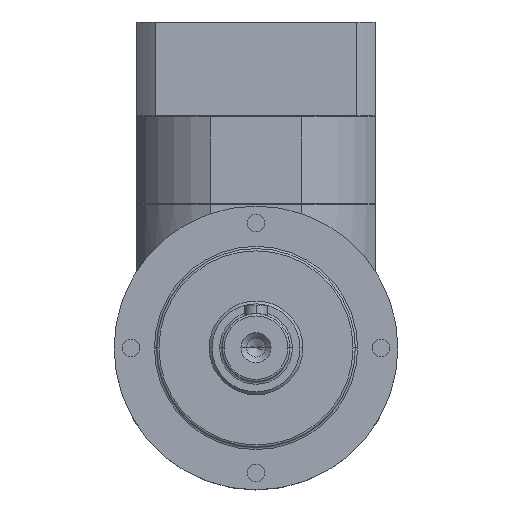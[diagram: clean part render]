
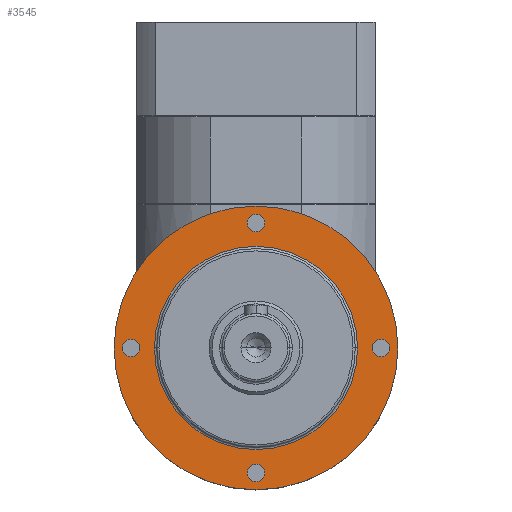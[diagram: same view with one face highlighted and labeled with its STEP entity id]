
A CAD part, top view. The second image highlights one B-rep face of the part: STEP entity #3545.
In plain terms, the highlighted planar face has unit normal (0, 0, 1).
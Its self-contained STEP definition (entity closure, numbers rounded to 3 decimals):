
#71 = EDGE_CURVE ( 'NONE', #2009, #2338, #698, .T. ) ;
#90 = FACE_BOUND ( 'NONE', #1835, .T. ) ;
#92 = VERTEX_POINT ( 'NONE', #1800 ) ;
#163 = DIRECTION ( 'NONE',  ( 0., 0., 1. ) ) ;
#219 = EDGE_CURVE ( 'NONE', #2334, #4240, #964, .T. ) ;
#290 = ORIENTED_EDGE ( 'NONE', *, *, #3217, .T. ) ;
#294 = CARTESIAN_POINT ( 'NONE',  ( -1.55, 22., 15. ) ) ;
#342 = CARTESIAN_POINT ( 'NONE',  ( 0., 22., 15. ) ) ;
#363 = AXIS2_PLACEMENT_3D ( 'NONE', #3899, #3852, #474 ) ;
#406 = EDGE_LOOP ( 'NONE', ( #1446, #1218 ) ) ;
#474 = DIRECTION ( 'NONE',  ( 1., 0., 0. ) ) ;
#494 = PLANE ( 'NONE',  #1918 ) ;
#499 = ORIENTED_EDGE ( 'NONE', *, *, #3732, .F. ) ;
#537 = CARTESIAN_POINT ( 'NONE',  ( 0., 0., 15. ) ) ;
#564 = FACE_BOUND ( 'NONE', #2912, .T. ) ;
#614 = ORIENTED_EDGE ( 'NONE', *, *, #2400, .T. ) ;
#646 = DIRECTION ( 'NONE',  ( 1., 0., 0. ) ) ;
#689 = DIRECTION ( 'NONE',  ( 1., 0., 0. ) ) ;
#698 = CIRCLE ( 'NONE', #3798, 1.55 ) ;
#746 = VERTEX_POINT ( 'NONE', #3964 ) ;
#777 = CARTESIAN_POINT ( 'NONE',  ( 0., -22., 15. ) ) ;
#781 = FACE_BOUND ( 'NONE', #406, .T. ) ;
#782 = CARTESIAN_POINT ( 'NONE',  ( -22., 0., 15. ) ) ;
#787 = CIRCLE ( 'NONE', #1164, 1.55 ) ;
#906 = CARTESIAN_POINT ( 'NONE',  ( 0., 0., 15. ) ) ;
#938 = AXIS2_PLACEMENT_3D ( 'NONE', #906, #1287, #2635 ) ;
#957 = DIRECTION ( 'NONE',  ( 0., 0., -1. ) ) ;
#964 = CIRCLE ( 'NONE', #4397, 1.55 ) ;
#988 = CIRCLE ( 'NONE', #2897, 1.55 ) ;
#1036 = EDGE_CURVE ( 'NONE', #1372, #3642, #3643, .T. ) ;
#1135 = DIRECTION ( 'NONE',  ( 0., 0., 1. ) ) ;
#1151 = EDGE_CURVE ( 'NONE', #3642, #1372, #1380, .T. ) ;
#1164 = AXIS2_PLACEMENT_3D ( 'NONE', #1470, #3167, #3131 ) ;
#1204 = CIRCLE ( 'NONE', #363, 1.55 ) ;
#1218 = ORIENTED_EDGE ( 'NONE', *, *, #219, .F. ) ;
#1287 = DIRECTION ( 'NONE',  ( 0., 0., 1. ) ) ;
#1322 = ORIENTED_EDGE ( 'NONE', *, *, #1151, .T. ) ;
#1329 = CARTESIAN_POINT ( 'NONE',  ( 0., 0., 15. ) ) ;
#1346 = VERTEX_POINT ( 'NONE', #1684 ) ;
#1372 = VERTEX_POINT ( 'NONE', #4063 ) ;
#1380 = CIRCLE ( 'NONE', #938, 25. ) ;
#1446 = ORIENTED_EDGE ( 'NONE', *, *, #3776, .F. ) ;
#1470 = CARTESIAN_POINT ( 'NONE',  ( -22., 0., 15. ) ) ;
#1472 = FACE_BOUND ( 'NONE', #3174, .T. ) ;
#1562 = DIRECTION ( 'NONE',  ( 0., 0., 1. ) ) ;
#1626 = CARTESIAN_POINT ( 'NONE',  ( 1.55, -22., 15. ) ) ;
#1630 = CARTESIAN_POINT ( 'NONE',  ( 1.55, 22., 15. ) ) ;
#1641 = CARTESIAN_POINT ( 'NONE',  ( -20.45, 0., 15. ) ) ;
#1677 = DIRECTION ( 'NONE',  ( 0., 0., 1. ) ) ;
#1683 = FACE_OUTER_BOUND ( 'NONE', #3607, .T. ) ;
#1684 = CARTESIAN_POINT ( 'NONE',  ( 20.45, 0., 15. ) ) ;
#1722 = CARTESIAN_POINT ( 'NONE',  ( 0., 0., 15. ) ) ;
#1772 = AXIS2_PLACEMENT_3D ( 'NONE', #3554, #2138, #2807 ) ;
#1800 = CARTESIAN_POINT ( 'NONE',  ( -1.55, -22., 15. ) ) ;
#1833 = AXIS2_PLACEMENT_3D ( 'NONE', #342, #3379, #3032 ) ;
#1835 = EDGE_LOOP ( 'NONE', ( #614, #290 ) ) ;
#1881 = DIRECTION ( 'NONE',  ( 1., 0., 0. ) ) ;
#1896 = CARTESIAN_POINT ( 'NONE',  ( 17.9, 0., 15. ) ) ;
#1905 = VERTEX_POINT ( 'NONE', #4129 ) ;
#1918 = AXIS2_PLACEMENT_3D ( 'NONE', #537, #1562, #3238 ) ;
#2009 = VERTEX_POINT ( 'NONE', #4099 ) ;
#2070 = CIRCLE ( 'NONE', #3968, 1.55 ) ;
#2104 = ORIENTED_EDGE ( 'NONE', *, *, #2130, .F. ) ;
#2116 = DIRECTION ( 'NONE',  ( 1., 0., 0. ) ) ;
#2130 = EDGE_CURVE ( 'NONE', #2338, #2009, #787, .T. ) ;
#2138 = DIRECTION ( 'NONE',  ( 0., 0., 1. ) ) ;
#2294 = ORIENTED_EDGE ( 'NONE', *, *, #1036, .T. ) ;
#2302 = AXIS2_PLACEMENT_3D ( 'NONE', #777, #3172, #2116 ) ;
#2334 = VERTEX_POINT ( 'NONE', #294 ) ;
#2338 = VERTEX_POINT ( 'NONE', #1641 ) ;
#2394 = DIRECTION ( 'NONE',  ( 1., 0., 0. ) ) ;
#2400 = EDGE_CURVE ( 'NONE', #3089, #1905, #2564, .T. ) ;
#2453 = EDGE_CURVE ( 'NONE', #92, #3240, #2613, .T. ) ;
#2476 = DIRECTION ( 'NONE',  ( 1., 0., 0. ) ) ;
#2564 = CIRCLE ( 'NONE', #3922, 17.9 ) ;
#2572 = EDGE_LOOP ( 'NONE', ( #499, #3429 ) ) ;
#2613 = CIRCLE ( 'NONE', #2302, 1.55 ) ;
#2635 = DIRECTION ( 'NONE',  ( 1., 0., 0. ) ) ;
#2655 = CIRCLE ( 'NONE', #4402, 17.9 ) ;
#2807 = DIRECTION ( 'NONE',  ( 1., 0., 0. ) ) ;
#2897 = AXIS2_PLACEMENT_3D ( 'NONE', #3794, #4091, #4118 ) ;
#2912 = EDGE_LOOP ( 'NONE', ( #2104, #3446 ) ) ;
#3032 = DIRECTION ( 'NONE',  ( 1., 0., 0. ) ) ;
#3089 = VERTEX_POINT ( 'NONE', #1896 ) ;
#3131 = DIRECTION ( 'NONE',  ( 1., 0., 0. ) ) ;
#3167 = DIRECTION ( 'NONE',  ( 0., 0., 1. ) ) ;
#3172 = DIRECTION ( 'NONE',  ( 0., 0., 1. ) ) ;
#3174 = EDGE_LOOP ( 'NONE', ( #4414, #4104 ) ) ;
#3217 = EDGE_CURVE ( 'NONE', #1905, #3089, #2655, .T. ) ;
#3238 = DIRECTION ( 'NONE',  ( 1., 0., 0. ) ) ;
#3240 = VERTEX_POINT ( 'NONE', #1626 ) ;
#3379 = DIRECTION ( 'NONE',  ( 0., 0., 1. ) ) ;
#3381 = EDGE_CURVE ( 'NONE', #1346, #746, #988, .T. ) ;
#3429 = ORIENTED_EDGE ( 'NONE', *, *, #2453, .F. ) ;
#3446 = ORIENTED_EDGE ( 'NONE', *, *, #71, .F. ) ;
#3545 = ADVANCED_FACE ( 'NONE', ( #90, #1472, #3938, #564, #781, #1683 ), #494, .T. ) ;
#3554 = CARTESIAN_POINT ( 'NONE',  ( 0., 0., 15. ) ) ;
#3607 = EDGE_LOOP ( 'NONE', ( #2294, #1322 ) ) ;
#3642 = VERTEX_POINT ( 'NONE', #3694 ) ;
#3643 = CIRCLE ( 'NONE', #1772, 25. ) ;
#3694 = CARTESIAN_POINT ( 'NONE',  ( 25., 0., 15. ) ) ;
#3718 = CIRCLE ( 'NONE', #1833, 1.55 ) ;
#3732 = EDGE_CURVE ( 'NONE', #3240, #92, #2070, .T. ) ;
#3776 = EDGE_CURVE ( 'NONE', #4240, #2334, #3718, .T. ) ;
#3794 = CARTESIAN_POINT ( 'NONE',  ( 22., 0., 15. ) ) ;
#3798 = AXIS2_PLACEMENT_3D ( 'NONE', #782, #1135, #2476 ) ;
#3852 = DIRECTION ( 'NONE',  ( 0., 0., 1. ) ) ;
#3899 = CARTESIAN_POINT ( 'NONE',  ( 22., 0., 15. ) ) ;
#3907 = CARTESIAN_POINT ( 'NONE',  ( 0., 22., 15. ) ) ;
#3922 = AXIS2_PLACEMENT_3D ( 'NONE', #1722, #4092, #689 ) ;
#3927 = EDGE_CURVE ( 'NONE', #746, #1346, #1204, .T. ) ;
#3938 = FACE_BOUND ( 'NONE', #2572, .T. ) ;
#3964 = CARTESIAN_POINT ( 'NONE',  ( 23.55, 0., 15. ) ) ;
#3968 = AXIS2_PLACEMENT_3D ( 'NONE', #4412, #1677, #2394 ) ;
#4063 = CARTESIAN_POINT ( 'NONE',  ( -25., 0., 15. ) ) ;
#4091 = DIRECTION ( 'NONE',  ( 0., 0., 1. ) ) ;
#4092 = DIRECTION ( 'NONE',  ( 0., 0., -1. ) ) ;
#4099 = CARTESIAN_POINT ( 'NONE',  ( -23.55, 0., 15. ) ) ;
#4104 = ORIENTED_EDGE ( 'NONE', *, *, #3381, .F. ) ;
#4118 = DIRECTION ( 'NONE',  ( 1., 0., 0. ) ) ;
#4129 = CARTESIAN_POINT ( 'NONE',  ( -17.9, 0., 15. ) ) ;
#4240 = VERTEX_POINT ( 'NONE', #1630 ) ;
#4397 = AXIS2_PLACEMENT_3D ( 'NONE', #3907, #163, #1881 ) ;
#4402 = AXIS2_PLACEMENT_3D ( 'NONE', #1329, #957, #646 ) ;
#4412 = CARTESIAN_POINT ( 'NONE',  ( 0., -22., 15. ) ) ;
#4414 = ORIENTED_EDGE ( 'NONE', *, *, #3927, .F. ) ;
